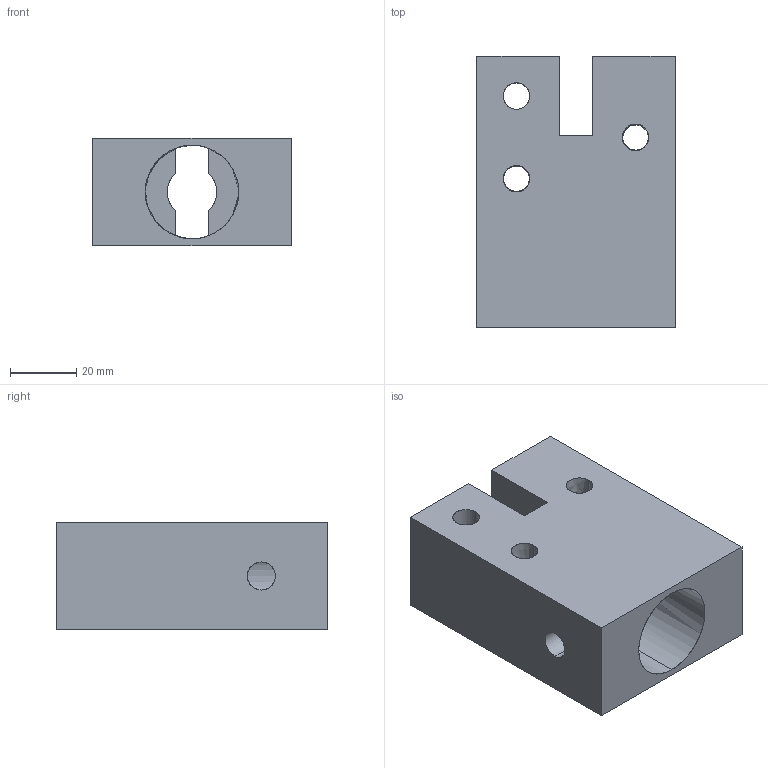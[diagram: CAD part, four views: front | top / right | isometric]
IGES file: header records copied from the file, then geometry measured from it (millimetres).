
Start section: SolidWorks IGES file using analytic representation for surfaces
Global section: file name: E:\Projets\Bee-Explorer\Conception\3D\SolidWorks\Gilles Freslaud\Pièce siège.IGS; native system: SolidWorks 2013; preprocessor: SolidWorks 2013; author: VG-Sens; date: 160211.144536; units: millimetre
Bounding box: 60 x 82 x 32.5 mm (x, y, z)
Surface area: 27185.2 mm2 (no closed solid volume)
Topology: 0 solids, 0 shells, 28 faces, 637 edges, 637 vertices
Faces by surface type: bspline 15, revolution 13
